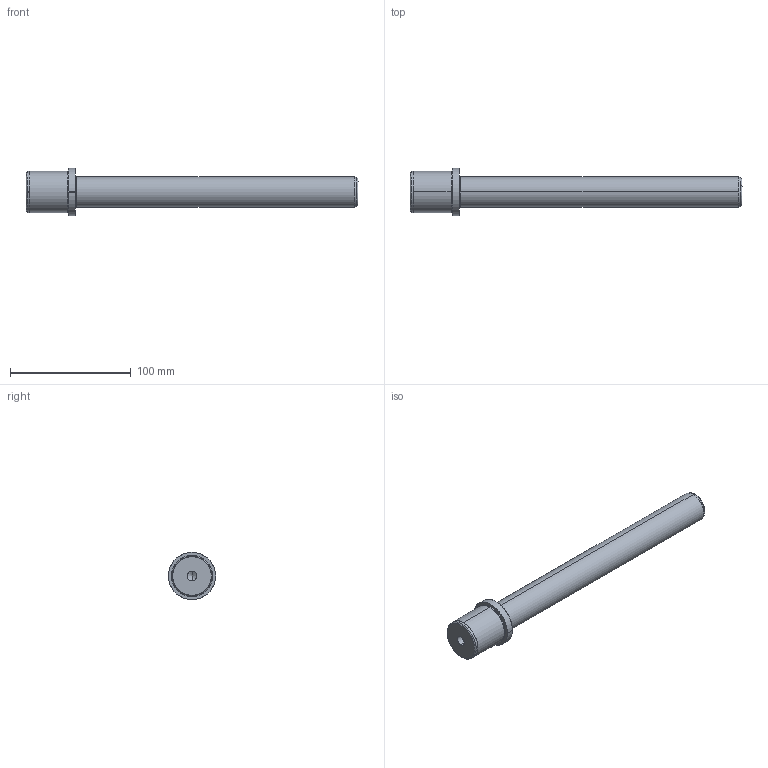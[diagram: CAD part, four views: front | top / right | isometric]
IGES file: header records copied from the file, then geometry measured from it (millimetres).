
Start section: SolidWorks IGES file using analytic representation for surfaces
Global section: file name: C:\Users\Dell\Desktop\delta\hatalýlar\D05\Ø25\D05_25x240x35.IGS; native system: SolidWorks 2010; preprocessor: SolidWorks 2010; author: Dell; date: 111218.233904; units: millimetre
Bounding box: 275 x 39 x 39 mm (x, y, z)
Surface area: 25458.5 mm2 (no closed solid volume)
Topology: 0 solids, 0 shells, 29 faces, 768 edges, 766 vertices
Faces by surface type: revolution 20, bspline 9
